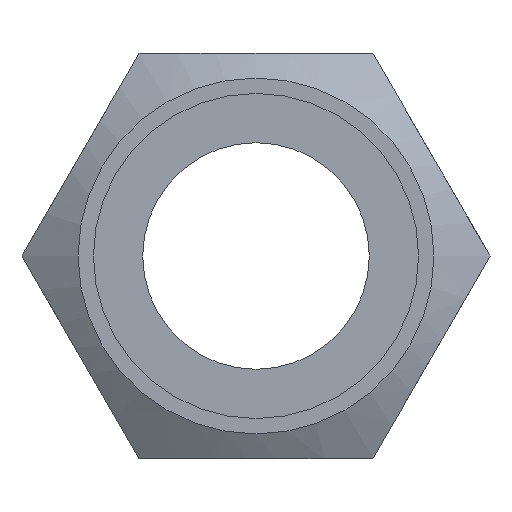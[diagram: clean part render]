
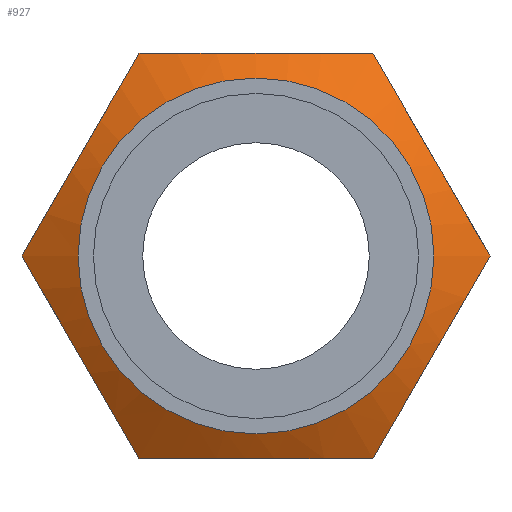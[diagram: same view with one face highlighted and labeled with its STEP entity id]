
A CAD part, front view. The second image highlights one B-rep face of the part: STEP entity #927.
In plain terms, the highlighted conical face has half-angle 60 degrees and reference radius 14 mm.
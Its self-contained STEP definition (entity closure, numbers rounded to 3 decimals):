
#80=CARTESIAN_POINT('',(-0.,0.5,9.66));
#81=VERTEX_POINT('',#80);
#82=CARTESIAN_POINT('',(0.,0.5,0.));
#83=DIRECTION('',(-0.,-1.,-0.));
#84=DIRECTION('',(0.,-0.,1.));
#85=AXIS2_PLACEMENT_3D('',#82,#83,#84);
#86=CIRCLE('',#85,9.66);
#87=EDGE_CURVE('',#81,#81,#86,.T.);
#654=CARTESIAN_POINT('',(-6.351,2.256,-11.));
#655=VERTEX_POINT('',#654);
#662=CARTESIAN_POINT('',(-12.702,2.256,0.));
#663=VERTEX_POINT('',#662);
#664=CARTESIAN_POINT('',(-12.702,2.256,0.));
#665=CARTESIAN_POINT('',(-12.189,1.96,-0.888));
#666=CARTESIAN_POINT('',(-11.669,1.713,-1.789));
#667=CARTESIAN_POINT('',(-11.137,1.54,-2.71));
#668=CARTESIAN_POINT('',(-10.871,1.454,-3.171));
#669=CARTESIAN_POINT('',(-10.602,1.386,-3.637));
#670=CARTESIAN_POINT('',(-10.332,1.341,-4.105));
#671=CARTESIAN_POINT('',(-10.062,1.296,-4.573));
#672=CARTESIAN_POINT('',(-9.791,1.273,-5.041));
#673=CARTESIAN_POINT('',(-9.52,1.274,-5.511));
#674=CARTESIAN_POINT('',(-8.977,1.274,-6.451));
#675=CARTESIAN_POINT('',(-8.443,1.369,-7.376));
#676=CARTESIAN_POINT('',(-7.916,1.54,-8.29));
#677=CARTESIAN_POINT('',(-7.388,1.711,-9.204));
#678=CARTESIAN_POINT('',(-6.867,1.958,-10.106));
#679=CARTESIAN_POINT('',(-6.351,2.256,-11.));
#680=B_SPLINE_CURVE_WITH_KNOTS('',3,(#664,#665,#666,#667,#668,#669,#670,#671,#672,#673,#674,#675,#676,#677,#678,#679),.UNSPECIFIED.,.F.,.F.,(4,3,3,3,3,4),(0.033,0.037,0.038,0.04,0.043,0.046),.UNSPECIFIED.);
#681=EDGE_CURVE('',#663,#655,#680,.T.);
#700=CARTESIAN_POINT('',(6.351,2.256,-11.));
#701=VERTEX_POINT('',#700);
#708=CARTESIAN_POINT('',(-6.351,2.256,-11.));
#709=CARTESIAN_POINT('',(-5.325,1.96,-11.));
#710=CARTESIAN_POINT('',(-4.285,1.713,-11.));
#711=CARTESIAN_POINT('',(-3.221,1.54,-11.));
#712=CARTESIAN_POINT('',(-2.69,1.454,-11.));
#713=CARTESIAN_POINT('',(-2.151,1.386,-11.));
#714=CARTESIAN_POINT('',(-1.611,1.341,-11.));
#715=CARTESIAN_POINT('',(-1.071,1.296,-11.));
#716=CARTESIAN_POINT('',(-0.53,1.273,-11.));
#717=CARTESIAN_POINT('',(0.013,1.274,-11.));
#718=CARTESIAN_POINT('',(1.098,1.274,-11.));
#719=CARTESIAN_POINT('',(2.167,1.369,-11.));
#720=CARTESIAN_POINT('',(3.222,1.54,-11.));
#721=CARTESIAN_POINT('',(4.277,1.711,-11.));
#722=CARTESIAN_POINT('',(5.318,1.958,-11.));
#723=CARTESIAN_POINT('',(6.351,2.256,-11.));
#724=B_SPLINE_CURVE_WITH_KNOTS('',3,(#708,#709,#710,#711,#712,#713,#714,#715,#716,#717,#718,#719,#720,#721,#722,#723),.UNSPECIFIED.,.F.,.F.,(4,3,3,3,3,4),(0.033,0.037,0.038,0.04,0.043,0.046),.UNSPECIFIED.);
#725=EDGE_CURVE('',#655,#701,#724,.T.);
#739=CARTESIAN_POINT('',(12.702,2.256,0.));
#740=VERTEX_POINT('',#739);
#747=CARTESIAN_POINT('',(6.351,2.256,-11.));
#748=CARTESIAN_POINT('',(6.864,1.96,-10.112));
#749=CARTESIAN_POINT('',(7.384,1.713,-9.211));
#750=CARTESIAN_POINT('',(7.916,1.54,-8.29));
#751=CARTESIAN_POINT('',(8.181,1.454,-7.829));
#752=CARTESIAN_POINT('',(8.451,1.386,-7.363));
#753=CARTESIAN_POINT('',(8.721,1.341,-6.895));
#754=CARTESIAN_POINT('',(8.991,1.296,-6.427));
#755=CARTESIAN_POINT('',(9.262,1.273,-5.959));
#756=CARTESIAN_POINT('',(9.533,1.274,-5.489));
#757=CARTESIAN_POINT('',(10.075,1.274,-4.549));
#758=CARTESIAN_POINT('',(10.61,1.369,-3.624));
#759=CARTESIAN_POINT('',(11.137,1.54,-2.71));
#760=CARTESIAN_POINT('',(11.665,1.711,-1.796));
#761=CARTESIAN_POINT('',(12.185,1.958,-0.894));
#762=CARTESIAN_POINT('',(12.702,2.256,0.));
#763=B_SPLINE_CURVE_WITH_KNOTS('',3,(#747,#748,#749,#750,#751,#752,#753,#754,#755,#756,#757,#758,#759,#760,#761,#762),.UNSPECIFIED.,.F.,.F.,(4,3,3,3,3,4),(0.033,0.037,0.038,0.04,0.043,0.046),.UNSPECIFIED.);
#764=EDGE_CURVE('',#701,#740,#763,.T.);
#778=CARTESIAN_POINT('',(6.351,2.256,11.));
#779=VERTEX_POINT('',#778);
#786=CARTESIAN_POINT('',(12.702,2.256,0.));
#787=CARTESIAN_POINT('',(12.191,1.961,0.885));
#788=CARTESIAN_POINT('',(11.674,1.716,1.78));
#789=CARTESIAN_POINT('',(11.149,1.544,2.69));
#790=CARTESIAN_POINT('',(10.623,1.372,3.601));
#791=CARTESIAN_POINT('',(10.088,1.275,4.527));
#792=CARTESIAN_POINT('',(9.542,1.274,5.473));
#793=CARTESIAN_POINT('',(8.996,1.272,6.419));
#794=CARTESIAN_POINT('',(8.458,1.365,7.351));
#795=CARTESIAN_POINT('',(7.926,1.537,8.271));
#796=CARTESIAN_POINT('',(7.395,1.708,9.191));
#797=CARTESIAN_POINT('',(6.871,1.956,10.1));
#798=CARTESIAN_POINT('',(6.351,2.256,11.));
#799=B_SPLINE_CURVE_WITH_KNOTS('',3,(#786,#787,#788,#789,#790,#791,#792,#793,#794,#795,#796,#797,#798),.UNSPECIFIED.,.F.,.F.,(4,3,3,3,4),(0.03,0.033,0.036,0.039,0.043),.UNSPECIFIED.);
#800=EDGE_CURVE('',#740,#779,#799,.T.);
#814=CARTESIAN_POINT('',(-6.351,2.256,11.));
#815=VERTEX_POINT('',#814);
#822=CARTESIAN_POINT('',(0.,1.274,11.));
#823=VERTEX_POINT('',#822);
#824=CARTESIAN_POINT('',(6.351,2.256,11.));
#825=CARTESIAN_POINT('',(5.314,1.957,11.));
#826=CARTESIAN_POINT('',(4.269,1.71,11.));
#827=CARTESIAN_POINT('',(3.214,1.539,11.));
#828=CARTESIAN_POINT('',(2.158,1.368,11.));
#829=CARTESIAN_POINT('',(1.092,1.274,11.));
#830=CARTESIAN_POINT('',(0.012,1.274,11.));
#831=CARTESIAN_POINT('',(-0.258,1.273,11.));
#832=CARTESIAN_POINT('',(-0.529,1.279,11.));
#833=CARTESIAN_POINT('',(-0.799,1.29,11.));
#834=CARTESIAN_POINT('',(-1.069,1.302,11.));
#835=CARTESIAN_POINT('',(-1.339,1.319,11.));
#836=CARTESIAN_POINT('',(-1.607,1.341,11.));
#837=CARTESIAN_POINT('',(-2.143,1.386,11.));
#838=CARTESIAN_POINT('',(-2.676,1.452,11.));
#839=CARTESIAN_POINT('',(-3.206,1.538,11.));
#840=CARTESIAN_POINT('',(-4.266,1.709,11.));
#841=CARTESIAN_POINT('',(-5.313,1.956,11.));
#842=CARTESIAN_POINT('',(-6.351,2.256,11.));
#843=B_SPLINE_CURVE_WITH_KNOTS('',3,(#824,#825,#826,#827,#828,#829,#830,#831,#832,#833,#834,#835,#836,#837,#838,#839,#840,#841,#842),.UNSPECIFIED.,.F.,.F.,(4,3,3,3,3,3,4),(0.,0.003,0.006,0.007,0.008,0.01,0.013),.UNSPECIFIED.);
#844=EDGE_CURVE('',#823,#815,#843,.T.);
#846=CARTESIAN_POINT('',(6.351,2.256,11.));
#847=CARTESIAN_POINT('',(5.314,1.957,11.));
#848=CARTESIAN_POINT('',(4.269,1.71,11.));
#849=CARTESIAN_POINT('',(3.214,1.539,11.));
#850=CARTESIAN_POINT('',(2.158,1.368,11.));
#851=CARTESIAN_POINT('',(1.092,1.274,11.));
#852=CARTESIAN_POINT('',(0.012,1.274,11.));
#853=CARTESIAN_POINT('',(-0.258,1.273,11.));
#854=CARTESIAN_POINT('',(-0.529,1.279,11.));
#855=CARTESIAN_POINT('',(-0.799,1.29,11.));
#856=CARTESIAN_POINT('',(-1.069,1.302,11.));
#857=CARTESIAN_POINT('',(-1.339,1.319,11.));
#858=CARTESIAN_POINT('',(-1.607,1.341,11.));
#859=CARTESIAN_POINT('',(-2.143,1.386,11.));
#860=CARTESIAN_POINT('',(-2.676,1.452,11.));
#861=CARTESIAN_POINT('',(-3.206,1.538,11.));
#862=CARTESIAN_POINT('',(-4.266,1.709,11.));
#863=CARTESIAN_POINT('',(-5.313,1.956,11.));
#864=CARTESIAN_POINT('',(-6.351,2.256,11.));
#865=B_SPLINE_CURVE_WITH_KNOTS('',3,(#846,#847,#848,#849,#850,#851,#852,#853,#854,#855,#856,#857,#858,#859,#860,#861,#862,#863,#864),.UNSPECIFIED.,.F.,.F.,(4,3,3,3,3,3,4),(0.,0.003,0.006,0.007,0.008,0.01,0.013),.UNSPECIFIED.);
#866=EDGE_CURVE('',#779,#823,#865,.T.);
#881=CARTESIAN_POINT('',(-6.351,2.256,11.));
#882=CARTESIAN_POINT('',(-6.864,1.96,10.112));
#883=CARTESIAN_POINT('',(-7.384,1.713,9.211));
#884=CARTESIAN_POINT('',(-7.916,1.54,8.29));
#885=CARTESIAN_POINT('',(-8.181,1.454,7.829));
#886=CARTESIAN_POINT('',(-8.451,1.386,7.363));
#887=CARTESIAN_POINT('',(-8.721,1.341,6.895));
#888=CARTESIAN_POINT('',(-8.991,1.296,6.427));
#889=CARTESIAN_POINT('',(-9.262,1.273,5.959));
#890=CARTESIAN_POINT('',(-9.533,1.274,5.489));
#891=CARTESIAN_POINT('',(-10.075,1.274,4.549));
#892=CARTESIAN_POINT('',(-10.61,1.369,3.624));
#893=CARTESIAN_POINT('',(-11.137,1.54,2.71));
#894=CARTESIAN_POINT('',(-11.665,1.711,1.796));
#895=CARTESIAN_POINT('',(-12.185,1.958,0.894));
#896=CARTESIAN_POINT('',(-12.702,2.256,-0.));
#897=B_SPLINE_CURVE_WITH_KNOTS('',3,(#881,#882,#883,#884,#885,#886,#887,#888,#889,#890,#891,#892,#893,#894,#895,#896),.UNSPECIFIED.,.F.,.F.,(4,3,3,3,3,4),(0.033,0.037,0.038,0.04,0.043,0.046),.UNSPECIFIED.);
#898=EDGE_CURVE('',#815,#663,#897,.T.);
#905=CARTESIAN_POINT('',(0.,3.006,0.));
#906=DIRECTION('',(0.,1.,0.));
#907=DIRECTION('',(0.,-0.,1.));
#908=AXIS2_PLACEMENT_3D('',#905,#906,#907);
#909=CONICAL_SURFACE('',#908,14.,60.);
#910=CARTESIAN_POINT('',(0.,1.274,11.));
#911=DIRECTION('',(-0.,-0.5,-0.866));
#912=VECTOR('',#911,1.547);
#913=LINE('',#910,#912);
#914=EDGE_CURVE('',#823,#81,#913,.T.);
#915=ORIENTED_EDGE('',*,*,#914,.T.);
#916=ORIENTED_EDGE('',*,*,#87,.F.);
#917=ORIENTED_EDGE('',*,*,#914,.F.);
#918=ORIENTED_EDGE('',*,*,#844,.T.);
#919=ORIENTED_EDGE('',*,*,#898,.T.);
#920=ORIENTED_EDGE('',*,*,#681,.T.);
#921=ORIENTED_EDGE('',*,*,#725,.T.);
#922=ORIENTED_EDGE('',*,*,#764,.T.);
#923=ORIENTED_EDGE('',*,*,#800,.T.);
#924=ORIENTED_EDGE('',*,*,#866,.T.);
#925=EDGE_LOOP('',(#915,#916,#917,#918,#919,#920,#921,#922,#923,#924));
#926=FACE_BOUND('',#925,.T.);
#927=ADVANCED_FACE('',(#926),#909,.T.);
